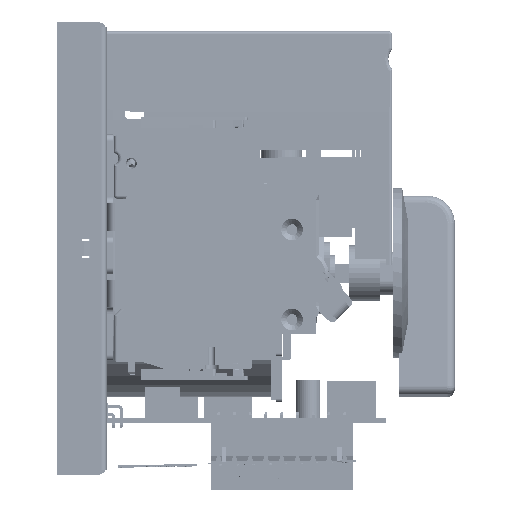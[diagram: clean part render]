
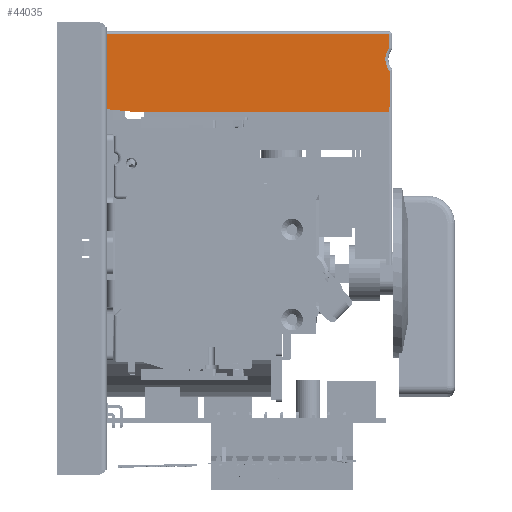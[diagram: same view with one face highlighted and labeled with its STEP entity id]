
A CAD part, left-side view. The second image highlights one B-rep face of the part: STEP entity #44035.
In plain terms, the highlighted planar face has unit normal (-1, 0, 0.009).
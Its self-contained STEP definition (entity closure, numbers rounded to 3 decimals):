
#272=ELLIPSE('',#371712,6.001,6.001);
#274=ELLIPSE('',#371714,114.593,1.);
#27940=PLANE('',#372117);
#44035=ADVANCED_FACE('',(#61816),#27940,.T.);
#61816=FACE_OUTER_BOUND('',#80519,.T.);
#80519=EDGE_LOOP('',(#245956,#245957,#245958,#245959,#245960,#245961,#245962,
#245963));
#117672=LINE('',#610250,#159870);
#117675=LINE('',#610309,#159873);
#117746=LINE('',#610573,#159944);
#118143=LINE('',#611549,#160341);
#118225=LINE('',#611714,#160423);
#118227=LINE('',#611718,#160425);
#159870=VECTOR('',#445009,1.);
#159873=VECTOR('',#445024,1.);
#159944=VECTOR('',#445195,1.);
#160341=VECTOR('',#446134,1.);
#160423=VECTOR('',#446310,1.);
#160425=VECTOR('',#446316,1.);
#245956=ORIENTED_EDGE('',*,*,#343682,.T.);
#245957=ORIENTED_EDGE('',*,*,#342988,.T.);
#245958=ORIENTED_EDGE('',*,*,#342985,.T.);
#245959=ORIENTED_EDGE('',*,*,#342982,.T.);
#245960=ORIENTED_EDGE('',*,*,#342972,.T.);
#245961=ORIENTED_EDGE('',*,*,#343095,.T.);
#245962=ORIENTED_EDGE('',*,*,#343593,.T.);
#245963=ORIENTED_EDGE('',*,*,#343680,.T.);
#292443=VERTEX_POINT('',#610240);
#292445=VERTEX_POINT('',#610248);
#292450=VERTEX_POINT('',#610302);
#292455=VERTEX_POINT('',#610324);
#292457=VERTEX_POINT('',#610362);
#292551=VERTEX_POINT('',#610572);
#292584=VERTEX_POINT('',#610685);
#292855=VERTEX_POINT('',#611548);
#342972=EDGE_CURVE('',#292443,#292445,#117672,.T.);
#342982=EDGE_CURVE('',#292450,#292443,#117675,.T.);
#342985=EDGE_CURVE('',#292455,#292450,#272,.T.);
#342988=EDGE_CURVE('',#292457,#292455,#274,.T.);
#343095=EDGE_CURVE('',#292445,#292551,#117746,.T.);
#343593=EDGE_CURVE('',#292551,#292855,#118143,.T.);
#343680=EDGE_CURVE('',#292855,#292584,#118225,.T.);
#343682=EDGE_CURVE('',#292584,#292457,#118227,.T.);
#371712=AXIS2_PLACEMENT_3D('',#610323,#445027,#445028);
#371714=AXIS2_PLACEMENT_3D('',#610361,#445031,#445032);
#372117=AXIS2_PLACEMENT_3D('',#611795,#446410,#446411);
#445009=DIRECTION('',(0.,1.,0.));
#445024=DIRECTION('',(0.009,0.,1.));
#445027=DIRECTION('',(1.,0.,-0.009));
#445028=DIRECTION('',(-0.009,0.,-1.));
#445031=DIRECTION('',(-1.,0.,0.009));
#445032=DIRECTION('',(-0.009,0.,-1.));
#445195=DIRECTION('',(-0.009,0.,-1.));
#446134=DIRECTION('',(-0.001,-0.995,-0.1));
#446310=DIRECTION('',(0.,-1.,0.));
#446316=DIRECTION('',(0.,-1.,0.));
#446410=DIRECTION('',(-1.,0.,0.009));
#446411=DIRECTION('',(-0.009,0.,-1.));
#610240=CARTESIAN_POINT('',(1050.12,-7.157,-15.123));
#610248=CARTESIAN_POINT('',(1050.12,83.843,-15.123));
#610250=CARTESIAN_POINT('',(1050.12,83.843,-15.123));
#610302=CARTESIAN_POINT('',(1050.082,-7.157,-19.523));
#610309=CARTESIAN_POINT('',(1050.129,-7.157,-14.134));
#610323=CARTESIAN_POINT('',(1050.05,-11.958,-23.123));
#610324=CARTESIAN_POINT('',(1050.014,-7.616,-27.266));
#610361=CARTESIAN_POINT('',(1050.902,-7.157,74.532));
#610362=CARTESIAN_POINT('',(1049.902,-7.157,-40.057));
#610572=CARTESIAN_POINT('',(1049.909,83.843,-39.257));
#610573=CARTESIAN_POINT('',(1049.902,83.843,-40.057));
#610685=CARTESIAN_POINT('',(1049.902,53.843,-40.057));
#611548=CARTESIAN_POINT('',(1049.902,75.843,-40.057));
#611549=CARTESIAN_POINT('',(1049.909,83.845,-39.257));
#611714=CARTESIAN_POINT('',(1049.902,34.843,-40.057));
#611718=CARTESIAN_POINT('',(1049.902,83.843,-40.057));
#611795=CARTESIAN_POINT('',(1049.902,34.843,-40.057));
